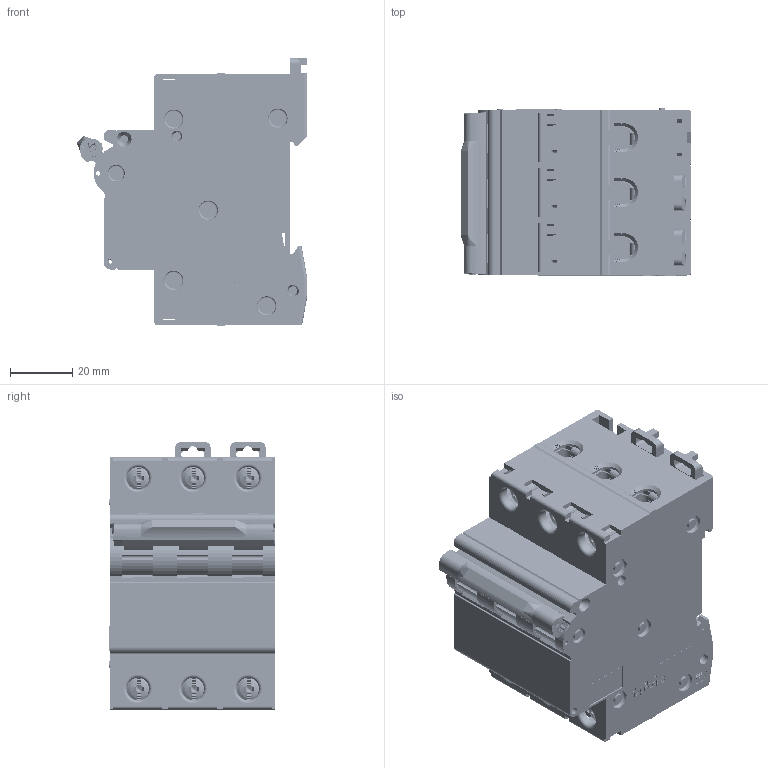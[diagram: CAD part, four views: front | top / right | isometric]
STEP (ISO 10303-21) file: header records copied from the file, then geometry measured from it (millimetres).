
FILE_DESCRIPTION((''),'2;1');
FILE_NAME('C65_3P_ASM','2018-12-16T',('SESA509781'),('Schneider-Electric'),'PRO/ENGINEER BY PARAMETRIC TECHNOLOGY CORPORATION, 2015440','PRO/ENGINEER BY PARAMETRIC TECHNOLOGY CORPORATION, 2015440','');
FILE_SCHEMA(('CONFIG_CONTROL_DESIGN'));
Products named in the file (13): 5120708500; 72583701; GHC1235600; 72431001; 4295306-00_LOCKING_CLIP; 5120708600; GHC1012000; C65_1P_BASIC_ASM; C65_1P_BASIC1_ASM; 72446907; 72663501; GHC1028400; C65_3P_ASM
Assembly tree (31 placements, depth 3):
  C65_3P_ASM
    C65_1P_BASIC_ASM  x2
      5120708500
      72583701
      GHC1235600
      72431001
      4295306-00_LOCKING_CLIP
      5120708600
      GHC1012000
    C65_1P_BASIC1_ASM
      5120708500
      72583701
      GHC1235600  x2
      72431001  x2
      5120708600
      GHC1012000  x4
    72446907  x2
    72663501
    GHC1028400  x2
Bounding box: 74.3 x 53.65 x 86.3 mm (x, y, z)
Volume: 106836.8 mm3; surface area: 136268.8 mm2
Topology: 40 solids, 46 shells, 12846 faces, 34423 edges, 22024 vertices
Faces by surface type: plane 8325, cylinder 2832, cone 623, torus 486, extrusion 312, bspline 170, sphere 98
Entity records: 136164 total; most frequent: CARTESIAN_POINT 31700, ORIENTED_EDGE 22374, DIRECTION 20520, EDGE_CURVE 11189, VECTOR 8318, LINE 8214, VERTEX_POINT 7182, AXIS2_PLACEMENT_3D 6101
